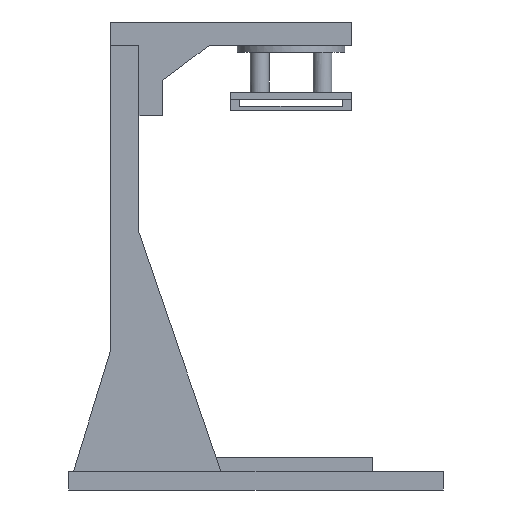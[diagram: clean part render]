
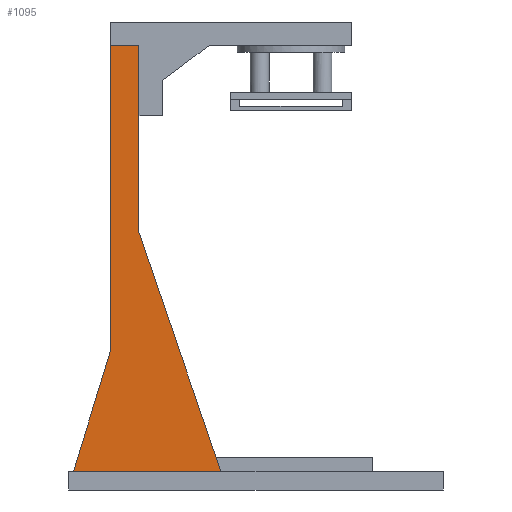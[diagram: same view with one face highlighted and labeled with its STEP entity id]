
A CAD part, left-side view. The second image highlights one B-rep face of the part: STEP entity #1095.
In plain terms, the highlighted planar face has unit normal (-1, 0, 0).
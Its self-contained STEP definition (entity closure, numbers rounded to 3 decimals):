
#152 = PLANE('',#153);
#153 = AXIS2_PLACEMENT_3D('',#154,#155,#156);
#154 = CARTESIAN_POINT('',(0.,0.,8.));
#155 = DIRECTION('',(0.,0.,1.));
#156 = DIRECTION('',(1.,0.,0.));
#406 = VERTEX_POINT('',#407);
#407 = CARTESIAN_POINT('',(45.,95.,8.));
#423 = PLANE('',#424);
#424 = AXIS2_PLACEMENT_3D('',#425,#426,#427);
#425 = CARTESIAN_POINT('',(45.,130.,110.));
#426 = DIRECTION('',(0.,0.946,-0.325));
#427 = DIRECTION('',(0.,-0.325,-0.946));
#435 = EDGE_CURVE('',#406,#436,#438,.T.);
#436 = VERTEX_POINT('',#437);
#437 = CARTESIAN_POINT('',(45.,158.,8.));
#438 = SURFACE_CURVE('',#439,(#443,#450),.PCURVE_S1.);
#439 = LINE('',#440,#441);
#440 = CARTESIAN_POINT('',(45.,95.,8.));
#441 = VECTOR('',#442,1.);
#442 = DIRECTION('',(0.,1.,0.));
#443 = PCURVE('',#152,#444);
#444 = DEFINITIONAL_REPRESENTATION('',(#445),#449);
#445 = LINE('',#446,#447);
#446 = CARTESIAN_POINT('',(45.,95.));
#447 = VECTOR('',#448,1.);
#448 = DIRECTION('',(0.,1.));
#449 = ( GEOMETRIC_REPRESENTATION_CONTEXT(2) 
PARAMETRIC_REPRESENTATION_CONTEXT() REPRESENTATION_CONTEXT('2D SPACE',''
  ) );
#450 = PCURVE('',#451,#456);
#451 = PLANE('',#452);
#452 = AXIS2_PLACEMENT_3D('',#453,#454,#455);
#453 = CARTESIAN_POINT('',(45.,146.601,30.601));
#454 = DIRECTION('',(1.,0.,0.));
#455 = DIRECTION('',(-0.,0.,1.));
#456 = DEFINITIONAL_REPRESENTATION('',(#457),#461);
#457 = LINE('',#458,#459);
#458 = CARTESIAN_POINT('',(-22.601,51.601));
#459 = VECTOR('',#460,1.);
#460 = DIRECTION('',(0.,-1.));
#461 = ( GEOMETRIC_REPRESENTATION_CONTEXT(2) 
PARAMETRIC_REPRESENTATION_CONTEXT() REPRESENTATION_CONTEXT('2D SPACE',''
  ) );
#479 = PLANE('',#480);
#480 = AXIS2_PLACEMENT_3D('',#481,#482,#483);
#481 = CARTESIAN_POINT('',(45.,158.,8.));
#482 = DIRECTION('',(0.,-0.956,-0.294));
#483 = DIRECTION('',(0.,-0.294,0.956));
#535 = PLANE('',#536);
#536 = AXIS2_PLACEMENT_3D('',#537,#538,#539);
#537 = CARTESIAN_POINT('',(45.,142.,8.));
#538 = DIRECTION('',(0.,1.,0.));
#539 = DIRECTION('',(0.,0.,1.));
#703 = PLANE('',#704);
#704 = AXIS2_PLACEMENT_3D('',#705,#706,#707);
#705 = CARTESIAN_POINT('',(45.,130.,8.));
#706 = DIRECTION('',(0.,1.,0.));
#707 = DIRECTION('',(0.,0.,1.));
#1029 = VERTEX_POINT('',#1030);
#1030 = CARTESIAN_POINT('',(45.,130.,110.));
#1075 = EDGE_CURVE('',#1029,#406,#1076,.T.);
#1076 = SURFACE_CURVE('',#1077,(#1081,#1088),.PCURVE_S1.);
#1077 = LINE('',#1078,#1079);
#1078 = CARTESIAN_POINT('',(45.,130.,110.));
#1079 = VECTOR('',#1080,1.);
#1080 = DIRECTION('',(0.,-0.325,-0.946));
#1081 = PCURVE('',#423,#1082);
#1082 = DEFINITIONAL_REPRESENTATION('',(#1083),#1087);
#1083 = LINE('',#1084,#1085);
#1084 = CARTESIAN_POINT('',(0.,0.));
#1085 = VECTOR('',#1086,1.);
#1086 = DIRECTION('',(1.,0.));
#1087 = ( GEOMETRIC_REPRESENTATION_CONTEXT(2) 
PARAMETRIC_REPRESENTATION_CONTEXT() REPRESENTATION_CONTEXT('2D SPACE',''
  ) );
#1088 = PCURVE('',#451,#1089);
#1089 = DEFINITIONAL_REPRESENTATION('',(#1090),#1094);
#1090 = LINE('',#1091,#1092);
#1091 = CARTESIAN_POINT('',(79.399,16.601));
#1092 = VECTOR('',#1093,1.);
#1093 = DIRECTION('',(-0.946,0.325));
#1094 = ( GEOMETRIC_REPRESENTATION_CONTEXT(2) 
PARAMETRIC_REPRESENTATION_CONTEXT() REPRESENTATION_CONTEXT('2D SPACE',''
  ) );
#1095 = ADVANCED_FACE('',(#1096),#451,.F.);
#1096 = FACE_BOUND('',#1097,.F.);
#1097 = EDGE_LOOP('',(#1098,#1121,#1144,#1172,#1193,#1194));
#1098 = ORIENTED_EDGE('',*,*,#1099,.T.);
#1099 = EDGE_CURVE('',#436,#1100,#1102,.T.);
#1100 = VERTEX_POINT('',#1101);
#1101 = CARTESIAN_POINT('',(45.,142.,60.));
#1102 = SURFACE_CURVE('',#1103,(#1107,#1114),.PCURVE_S1.);
#1103 = LINE('',#1104,#1105);
#1104 = CARTESIAN_POINT('',(45.,158.,8.));
#1105 = VECTOR('',#1106,1.);
#1106 = DIRECTION('',(0.,-0.294,0.956));
#1107 = PCURVE('',#451,#1108);
#1108 = DEFINITIONAL_REPRESENTATION('',(#1109),#1113);
#1109 = LINE('',#1110,#1111);
#1110 = CARTESIAN_POINT('',(-22.601,-11.399));
#1111 = VECTOR('',#1112,1.);
#1112 = DIRECTION('',(0.956,0.294));
#1113 = ( GEOMETRIC_REPRESENTATION_CONTEXT(2) 
PARAMETRIC_REPRESENTATION_CONTEXT() REPRESENTATION_CONTEXT('2D SPACE',''
  ) );
#1114 = PCURVE('',#479,#1115);
#1115 = DEFINITIONAL_REPRESENTATION('',(#1116),#1120);
#1116 = LINE('',#1117,#1118);
#1117 = CARTESIAN_POINT('',(0.,0.));
#1118 = VECTOR('',#1119,1.);
#1119 = DIRECTION('',(1.,0.));
#1120 = ( GEOMETRIC_REPRESENTATION_CONTEXT(2) 
PARAMETRIC_REPRESENTATION_CONTEXT() REPRESENTATION_CONTEXT('2D SPACE',''
  ) );
#1121 = ORIENTED_EDGE('',*,*,#1122,.T.);
#1122 = EDGE_CURVE('',#1100,#1123,#1125,.T.);
#1123 = VERTEX_POINT('',#1124);
#1124 = CARTESIAN_POINT('',(45.,142.,190.));
#1125 = SURFACE_CURVE('',#1126,(#1130,#1137),.PCURVE_S1.);
#1126 = LINE('',#1127,#1128);
#1127 = CARTESIAN_POINT('',(45.,142.,8.));
#1128 = VECTOR('',#1129,1.);
#1129 = DIRECTION('',(0.,0.,1.));
#1130 = PCURVE('',#451,#1131);
#1131 = DEFINITIONAL_REPRESENTATION('',(#1132),#1136);
#1132 = LINE('',#1133,#1134);
#1133 = CARTESIAN_POINT('',(-22.601,4.601));
#1134 = VECTOR('',#1135,1.);
#1135 = DIRECTION('',(1.,0.));
#1136 = ( GEOMETRIC_REPRESENTATION_CONTEXT(2) 
PARAMETRIC_REPRESENTATION_CONTEXT() REPRESENTATION_CONTEXT('2D SPACE',''
  ) );
#1137 = PCURVE('',#535,#1138);
#1138 = DEFINITIONAL_REPRESENTATION('',(#1139),#1143);
#1139 = LINE('',#1140,#1141);
#1140 = CARTESIAN_POINT('',(0.,0.));
#1141 = VECTOR('',#1142,1.);
#1142 = DIRECTION('',(1.,0.));
#1143 = ( GEOMETRIC_REPRESENTATION_CONTEXT(2) 
PARAMETRIC_REPRESENTATION_CONTEXT() REPRESENTATION_CONTEXT('2D SPACE',''
  ) );
#1144 = ORIENTED_EDGE('',*,*,#1145,.F.);
#1145 = EDGE_CURVE('',#1146,#1123,#1148,.T.);
#1146 = VERTEX_POINT('',#1147);
#1147 = CARTESIAN_POINT('',(45.,130.,190.));
#1148 = SURFACE_CURVE('',#1149,(#1153,#1160),.PCURVE_S1.);
#1149 = LINE('',#1150,#1151);
#1150 = CARTESIAN_POINT('',(45.,130.,190.));
#1151 = VECTOR('',#1152,1.);
#1152 = DIRECTION('',(0.,1.,0.));
#1153 = PCURVE('',#451,#1154);
#1154 = DEFINITIONAL_REPRESENTATION('',(#1155),#1159);
#1155 = LINE('',#1156,#1157);
#1156 = CARTESIAN_POINT('',(159.399,16.601));
#1157 = VECTOR('',#1158,1.);
#1158 = DIRECTION('',(0.,-1.));
#1159 = ( GEOMETRIC_REPRESENTATION_CONTEXT(2) 
PARAMETRIC_REPRESENTATION_CONTEXT() REPRESENTATION_CONTEXT('2D SPACE',''
  ) );
#1160 = PCURVE('',#1161,#1166);
#1161 = PLANE('',#1162);
#1162 = AXIS2_PLACEMENT_3D('',#1163,#1164,#1165);
#1163 = CARTESIAN_POINT('',(45.,130.,190.));
#1164 = DIRECTION('',(0.,0.,1.));
#1165 = DIRECTION('',(1.,0.,0.));
#1166 = DEFINITIONAL_REPRESENTATION('',(#1167),#1171);
#1167 = LINE('',#1168,#1169);
#1168 = CARTESIAN_POINT('',(0.,0.));
#1169 = VECTOR('',#1170,1.);
#1170 = DIRECTION('',(0.,1.));
#1171 = ( GEOMETRIC_REPRESENTATION_CONTEXT(2) 
PARAMETRIC_REPRESENTATION_CONTEXT() REPRESENTATION_CONTEXT('2D SPACE',''
  ) );
#1172 = ORIENTED_EDGE('',*,*,#1173,.F.);
#1173 = EDGE_CURVE('',#1029,#1146,#1174,.T.);
#1174 = SURFACE_CURVE('',#1175,(#1179,#1186),.PCURVE_S1.);
#1175 = LINE('',#1176,#1177);
#1176 = CARTESIAN_POINT('',(45.,130.,8.));
#1177 = VECTOR('',#1178,1.);
#1178 = DIRECTION('',(0.,0.,1.));
#1179 = PCURVE('',#451,#1180);
#1180 = DEFINITIONAL_REPRESENTATION('',(#1181),#1185);
#1181 = LINE('',#1182,#1183);
#1182 = CARTESIAN_POINT('',(-22.601,16.601));
#1183 = VECTOR('',#1184,1.);
#1184 = DIRECTION('',(1.,0.));
#1185 = ( GEOMETRIC_REPRESENTATION_CONTEXT(2) 
PARAMETRIC_REPRESENTATION_CONTEXT() REPRESENTATION_CONTEXT('2D SPACE',''
  ) );
#1186 = PCURVE('',#703,#1187);
#1187 = DEFINITIONAL_REPRESENTATION('',(#1188),#1192);
#1188 = LINE('',#1189,#1190);
#1189 = CARTESIAN_POINT('',(0.,0.));
#1190 = VECTOR('',#1191,1.);
#1191 = DIRECTION('',(1.,0.));
#1192 = ( GEOMETRIC_REPRESENTATION_CONTEXT(2) 
PARAMETRIC_REPRESENTATION_CONTEXT() REPRESENTATION_CONTEXT('2D SPACE',''
  ) );
#1193 = ORIENTED_EDGE('',*,*,#1075,.T.);
#1194 = ORIENTED_EDGE('',*,*,#435,.T.);
